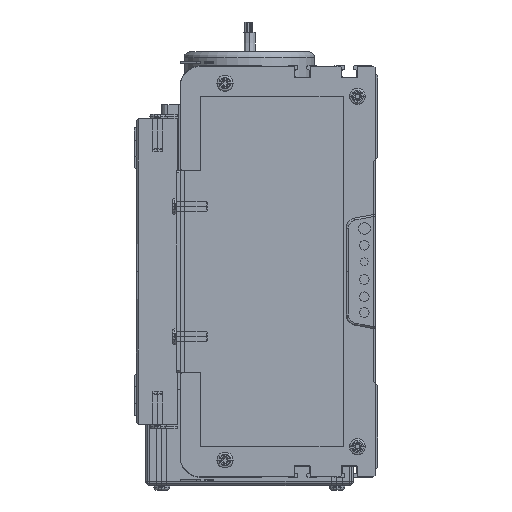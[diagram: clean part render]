
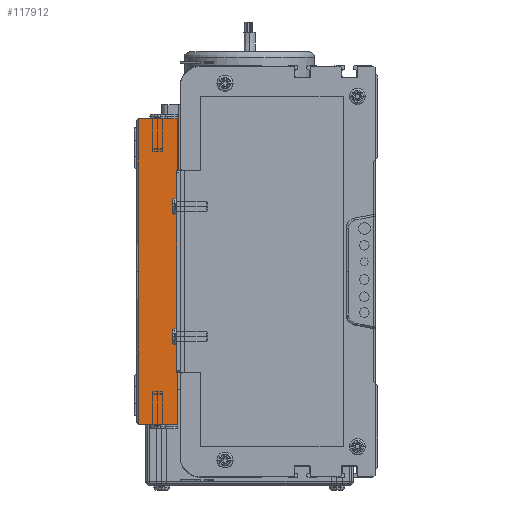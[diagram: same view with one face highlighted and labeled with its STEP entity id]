
A CAD part, left-side view. The second image highlights one B-rep face of the part: STEP entity #117912.
In plain terms, the highlighted planar face has unit normal (-1, 0, 0).
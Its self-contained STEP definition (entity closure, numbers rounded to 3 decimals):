
#15192 = CARTESIAN_POINT ( 'NONE',  ( 0., 20., 75. ) ) ;
#15200 = LINE ( 'NONE', #15192, #15552 ) ;
#15249 = CARTESIAN_POINT ( 'NONE',  ( 0., 19., 75. ) ) ;
#15356 = DIRECTION ( 'NONE',  ( 0., 0., 1. ) ) ;
#15357 = VECTOR ( 'NONE', #15356, 1000. ) ;
#15360 = CARTESIAN_POINT ( 'NONE',  ( 0., 0., 75. ) ) ;
#15386 = CARTESIAN_POINT ( 'NONE',  ( 0., 0., -75. ) ) ;
#15507 = CARTESIAN_POINT ( 'NONE',  ( 0., 0., 0. ) ) ;
#15508 = LINE ( 'NONE', #15507, #15357 ) ;
#15545 = DIRECTION ( 'NONE',  ( 0., -1., 0. ) ) ;
#15552 = VECTOR ( 'NONE', #15545, 1000. ) ;
#15695 = FACE_OUTER_BOUND ( 'NONE', #118090, .T. ) ;
#15716 = DIRECTION ( 'NONE',  ( 0., 0., -1. ) ) ;
#15717 = DIRECTION ( 'NONE',  ( 1., 0., 0. ) ) ;
#15718 = CARTESIAN_POINT ( 'NONE',  ( 0., 20., 0. ) ) ;
#15719 = AXIS2_PLACEMENT_3D ( 'NONE', #15718, #15717, #15716 ) ;
#15779 = PLANE ( 'NONE',  #15719 ) ;
#16124 = CARTESIAN_POINT ( 'NONE',  ( 0., 19., -75. ) ) ;
#16298 = LINE ( 'NONE', #16533, #16531 ) ;
#16305 = DIRECTION ( 'NONE',  ( 0., 0., -1. ) ) ;
#16306 = VECTOR ( 'NONE', #16305, 1000. ) ;
#16312 = LINE ( 'NONE', #16329, #16306 ) ;
#16321 = DIRECTION ( 'NONE',  ( 0., 0., -1. ) ) ;
#16323 = VECTOR ( 'NONE', #16321, 1000. ) ;
#16329 = CARTESIAN_POINT ( 'NONE',  ( 0., 19., 0. ) ) ;
#16454 = CARTESIAN_POINT ( 'NONE',  ( 0., 19., 0. ) ) ;
#16455 = LINE ( 'NONE', #16454, #16323 ) ;
#16467 = CARTESIAN_POINT ( 'NONE',  ( 0., 19., 0. ) ) ;
#16529 = DIRECTION ( 'NONE',  ( 0., -1., 0. ) ) ;
#16531 = VECTOR ( 'NONE', #16529, 1000. ) ;
#16533 = CARTESIAN_POINT ( 'NONE',  ( 0., 20., -75. ) ) ;
#117769 = EDGE_CURVE ( 'NONE', #117835, #117874, #15200, .T. ) ;
#117835 = VERTEX_POINT ( 'NONE', #15249 ) ;
#117862 = VERTEX_POINT ( 'NONE', #15386 ) ;
#117872 = EDGE_CURVE ( 'NONE', #117862, #117874, #15508, .T. ) ;
#117874 = VERTEX_POINT ( 'NONE', #15360 ) ;
#117912 = ADVANCED_FACE ( 'NONE', ( #15695 ), #15779, .F. ) ;
#117979 = ORIENTED_EDGE ( 'NONE', *, *, #117872, .T. ) ;
#117989 = VERTEX_POINT ( 'NONE', #16124 ) ;
#117993 = EDGE_CURVE ( 'NONE', #117989, #117862, #16298, .T. ) ;
#118065 = VERTEX_POINT ( 'NONE', #16467 ) ;
#118066 = EDGE_CURVE ( 'NONE', #118065, #117989, #16455, .T. ) ;
#118074 = ORIENTED_EDGE ( 'NONE', *, *, #118078, .T. ) ;
#118075 = ORIENTED_EDGE ( 'NONE', *, *, #117769, .F. ) ;
#118076 = ORIENTED_EDGE ( 'NONE', *, *, #117993, .T. ) ;
#118078 = EDGE_CURVE ( 'NONE', #117835, #118065, #16312, .T. ) ;
#118080 = ORIENTED_EDGE ( 'NONE', *, *, #118066, .T. ) ;
#118090 = EDGE_LOOP ( 'NONE', ( #118075, #118074, #118080, #118076, #117979 ) ) ;
